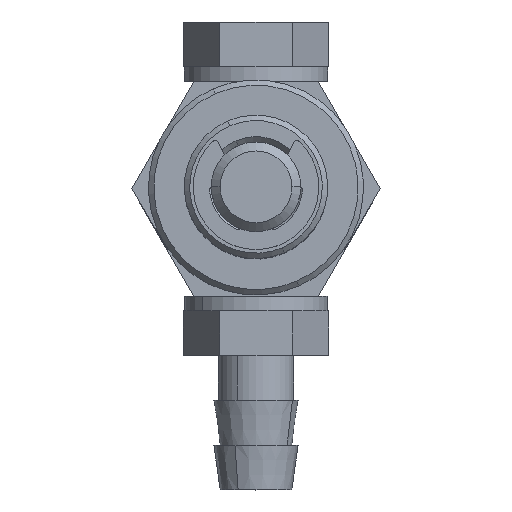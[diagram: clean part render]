
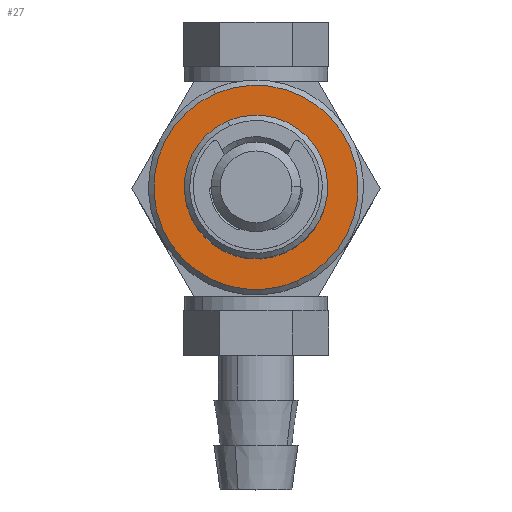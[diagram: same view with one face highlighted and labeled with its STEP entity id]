
A CAD part, top view. The second image highlights one B-rep face of the part: STEP entity #27.
In plain terms, the highlighted planar face has unit normal (0, 0, 1).
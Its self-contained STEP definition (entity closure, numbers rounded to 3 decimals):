
#27 = ADVANCED_FACE ( 'NONE', ( #4044, #8970 ), #2178, .T. ) ;
#28 = ORIENTED_EDGE ( 'NONE', *, *, #4837, .F. ) ;
#138 = AXIS2_PLACEMENT_3D ( 'NONE', #9752, #11651, #5835 ) ;
#537 = CIRCLE ( 'NONE', #138, 4. ) ;
#798 = VERTEX_POINT ( 'NONE', #3016 ) ;
#935 = AXIS2_PLACEMENT_3D ( 'NONE', #8733, #11630, #4919 ) ;
#1086 = CARTESIAN_POINT ( 'NONE',  ( 0., 0., 53.5 ) ) ;
#1154 = DIRECTION ( 'NONE',  ( 0., 0., 1. ) ) ;
#2055 = DIRECTION ( 'NONE',  ( 0., 0., 1. ) ) ;
#2178 = PLANE ( 'NONE',  #9171 ) ;
#2514 = VERTEX_POINT ( 'NONE', #6799 ) ;
#2637 = EDGE_CURVE ( 'NONE', #7547, #2514, #4935, .T. ) ;
#3016 = CARTESIAN_POINT ( 'NONE',  ( 1.587, -3.671, 53.5 ) ) ;
#3217 = CIRCLE ( 'NONE', #5218, 5.7 ) ;
#3252 = ORIENTED_EDGE ( 'NONE', *, *, #2637, .T. ) ;
#3875 = DIRECTION ( 'NONE',  ( 0.397, -0.918, 0. ) ) ;
#3973 = DIRECTION ( 'NONE',  ( 0.397, -0.918, 0. ) ) ;
#4044 = FACE_OUTER_BOUND ( 'NONE', #11073, .T. ) ;
#4837 = EDGE_CURVE ( 'NONE', #8871, #798, #537, .T. ) ;
#4919 = DIRECTION ( 'NONE',  ( 0.397, -0.918, 0. ) ) ;
#4935 = CIRCLE ( 'NONE', #935, 5.7 ) ;
#5218 = AXIS2_PLACEMENT_3D ( 'NONE', #1086, #1154, #3973 ) ;
#5334 = EDGE_CURVE ( 'NONE', #798, #8871, #6181, .T. ) ;
#5835 = DIRECTION ( 'NONE',  ( 0.397, -0.918, 0. ) ) ;
#5913 = CARTESIAN_POINT ( 'NONE',  ( -2.262, 5.232, 53.5 ) ) ;
#5931 = CARTESIAN_POINT ( 'NONE',  ( 3.671, 1.587, 53.5 ) ) ;
#5995 = DIRECTION ( 'NONE',  ( 0.397, -0.918, 0. ) ) ;
#6181 = CIRCLE ( 'NONE', #8788, 4. ) ;
#6799 = CARTESIAN_POINT ( 'NONE',  ( 2.262, -5.232, 53.5 ) ) ;
#6830 = CARTESIAN_POINT ( 'NONE',  ( 0., 0., 53.5 ) ) ;
#7367 = CARTESIAN_POINT ( 'NONE',  ( -1.587, 3.671, 53.5 ) ) ;
#7547 = VERTEX_POINT ( 'NONE', #5913 ) ;
#8733 = CARTESIAN_POINT ( 'NONE',  ( 0., 0., 53.5 ) ) ;
#8788 = AXIS2_PLACEMENT_3D ( 'NONE', #6830, #2055, #3875 ) ;
#8871 = VERTEX_POINT ( 'NONE', #7367 ) ;
#8970 = FACE_BOUND ( 'NONE', #9121, .T. ) ;
#9121 = EDGE_LOOP ( 'NONE', ( #12016, #28 ) ) ;
#9171 = AXIS2_PLACEMENT_3D ( 'NONE', #5931, #9780, #5995 ) ;
#9752 = CARTESIAN_POINT ( 'NONE',  ( 0., 0., 53.5 ) ) ;
#9780 = DIRECTION ( 'NONE',  ( 0., 0., 1. ) ) ;
#11073 = EDGE_LOOP ( 'NONE', ( #3252, #11799 ) ) ;
#11479 = EDGE_CURVE ( 'NONE', #2514, #7547, #3217, .T. ) ;
#11630 = DIRECTION ( 'NONE',  ( 0., 0., 1. ) ) ;
#11651 = DIRECTION ( 'NONE',  ( 0., 0., 1. ) ) ;
#11799 = ORIENTED_EDGE ( 'NONE', *, *, #11479, .T. ) ;
#12016 = ORIENTED_EDGE ( 'NONE', *, *, #5334, .F. ) ;
